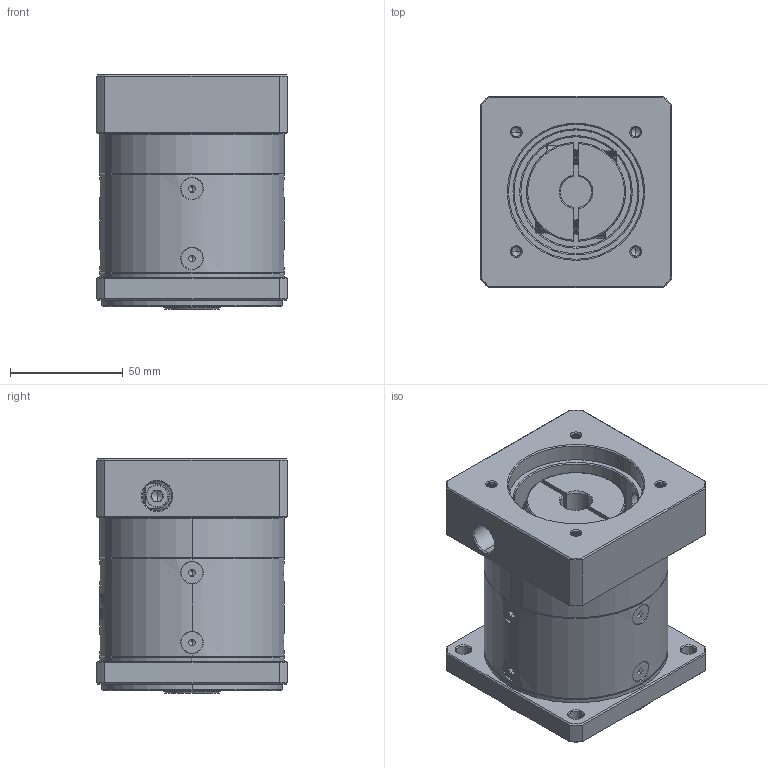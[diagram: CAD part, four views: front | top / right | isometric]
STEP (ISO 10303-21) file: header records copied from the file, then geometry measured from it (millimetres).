
FILE_DESCRIPTION (( 'STEP AP214' ), '1' );
FILE_NAME ('ZF080-K15-L1-P2-14-60-75-M5.step', '2023-08-19T05:34:19', ( '' ), ( '' ), 'SwSTEP 2.0', 'SolidWorks 2016', '' );
FILE_SCHEMA (( 'AUTOMOTIVE_DESIGN' ));
Length unit declared in the file: millimetre
Products named in the file (1): ZF080-K15-L1-P2-14-60-75-M5
Bounding box: 85 x 85 x 104 mm (x, y, z)
Volume: 538561.7 mm3; surface area: 86969.9 mm2
Topology: 13 solids, 13 shells, 2216 faces, 5813 edges, 3695 vertices
Faces by surface type: plane 1066, bspline 390, cylinder 384, cone 341, torus 35
Entity records: 117642 total; most frequent: CARTESIAN_POINT 43675, ORIENTED_EDGE 11570, DIRECTION 8580, EDGE_CURVE 5785, VERTEX_POINT 3695, VECTOR 3080, LINE 3080, AXIS2_PLACEMENT_3D 2750
